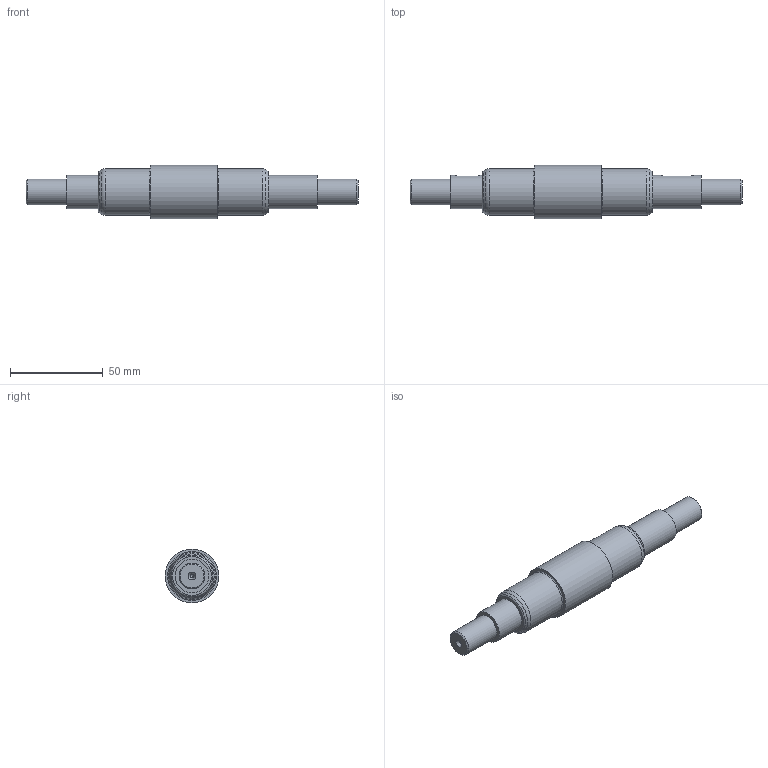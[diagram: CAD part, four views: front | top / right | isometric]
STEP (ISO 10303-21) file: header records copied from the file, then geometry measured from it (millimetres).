
FILE_DESCRIPTION(/* description */ (''),/* implementation_level */ '2;1');
FILE_NAME(/* name */ '',/* time_stamp */ '2025-07-11T16:43:16+09:00',/* author */ ('jhkim'),/* organization */ (''),/* preprocessor_version */ 'ST-DEVELOPER v20.1',/* originating_system */ 'Autodesk Inventor 2026',/* authorisation */ '');
FILE_SCHEMA (('AUTOMOTIVE_DESIGN { 1 0 10303 214 3 1 1 }'));
Length unit declared in the file: millimetre
Products named in the file (1): 축
Bounding box: 179 x 29 x 29 mm (x, y, z)
Volume: 68023.3 mm3; surface area: 13378.5 mm2
Topology: 1 solids, 1 shells, 41 faces, 93 edges, 62 vertices
Faces by surface type: plane 14, cylinder 13, cone 8, torus 6
Full cylindrical faces by diameter (mm): 2 x2, 14 x2, 18 x2, 25 x2, 29 x1
Entity records: 1266 total; most frequent: CARTESIAN_POINT 267, DIRECTION 217, ORIENTED_EDGE 182, AXIS2_PLACEMENT_3D 92, EDGE_CURVE 91, VERTEX_POINT 62, EDGE_LOOP 51, CIRCLE 50
